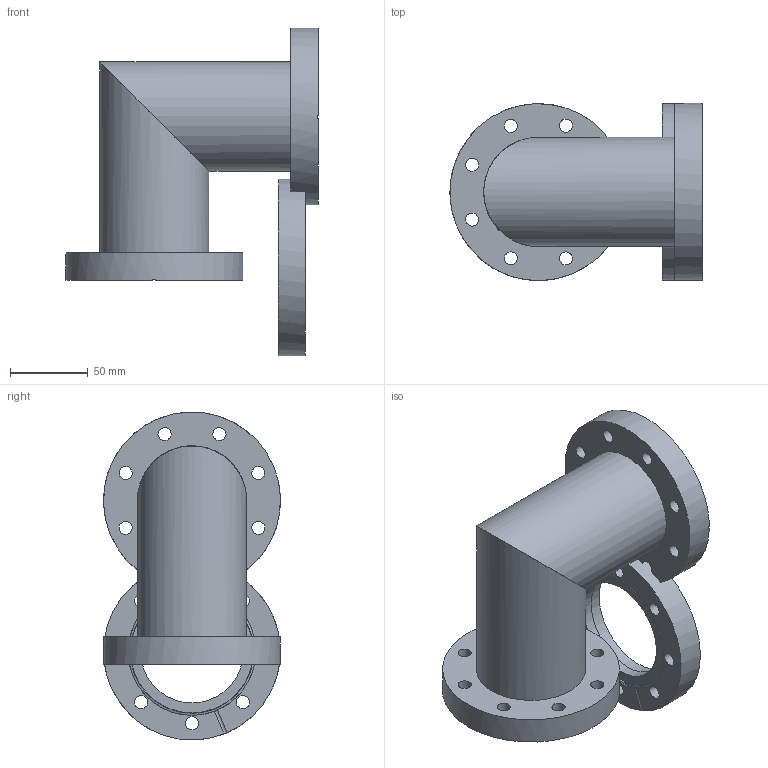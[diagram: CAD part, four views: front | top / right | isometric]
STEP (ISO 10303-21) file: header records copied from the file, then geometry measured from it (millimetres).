
FILE_DESCRIPTION( ( 'Unknown' ), '1' );
FILE_NAME( 'X:/Daten ( aktueller Bestand )/Projekte und Zeichnungen/Solid Edge/14 CF Verzweigungen/CF-Bogen und Winkel, Flansche fest/7133F.stp', 'Unknown', ( 'Unknown' ), ( 'Unknown' ), 'XStep 1.0', 'Unknown', ' ' );
FILE_SCHEMA( ( 'automotive_design' ) );
Length unit declared in the file: millimetre
Products named in the file (3): Assem1; 7133F-1; 7513F
Bounding box: 161.75 x 113.5 x 210.39 mm (x, y, z)
Volume: 432846 mm3; surface area: 206352.2 mm2
Topology: 6 solids, 6 shells, 75 faces, 183 edges, 123 vertices
Faces by surface type: cylinder 48, plane 21, cone 6
Full cylindrical faces by diameter (mm): 8.4 x24, 66 x6, 70 x3, 70.3 x3, 82 x3, 113.5 x3
Entity records: 820 total; most frequent: CARTESIAN_POINT 160, DIRECTION 130, ORIENTED_EDGE 82, AXIS2_PLACEMENT_3D 63, EDGE_LOOP 62, EDGE_CURVE 41, FACE_OUTER_BOUND 39, VERTEX_POINT 37
